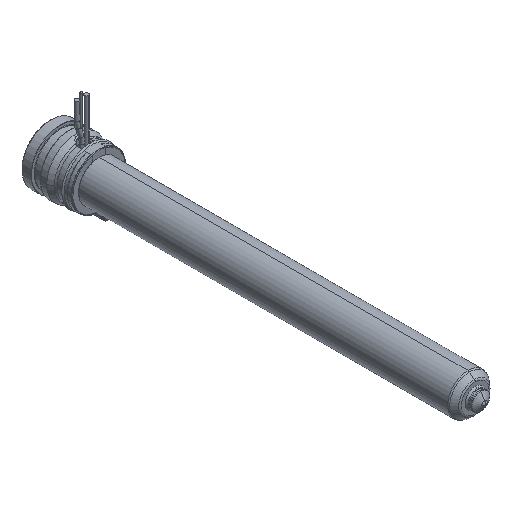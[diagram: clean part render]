
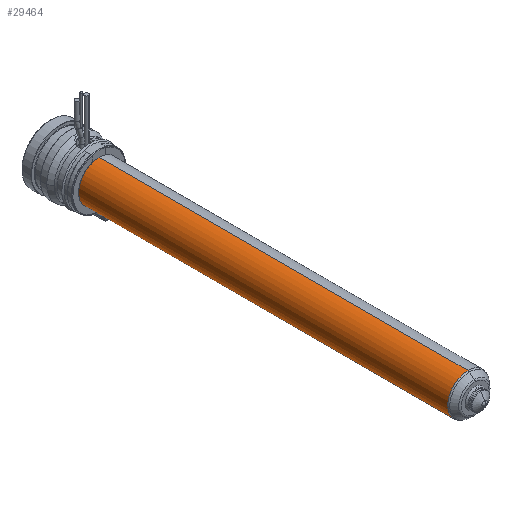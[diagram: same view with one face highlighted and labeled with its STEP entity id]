
A CAD part, isometric view. The second image highlights one B-rep face of the part: STEP entity #29464.
In plain terms, the highlighted cylindrical face has radius 9 mm (diameter 18 mm), a partial arc.
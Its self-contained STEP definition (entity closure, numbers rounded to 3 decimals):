
#28868=CARTESIAN_POINT('',(0.,-185.836,0.));
#28869=DIRECTION('',(0.,-1.,0.));
#28870=DIRECTION('',(0.,0.,1.));
#28871=AXIS2_PLACEMENT_3D('',#28868,#28869,#28870);
#28873=CARTESIAN_POINT('',(0.,-22.,0.));
#28874=DIRECTION('',(0.,1.,0.));
#28875=DIRECTION('',(0.,0.,-1.));
#28876=AXIS2_PLACEMENT_3D('',#28873,#28874,#28875);
#28878=DIRECTION('',(0.,1.,0.));
#28879=VECTOR('',#28878,163.836);
#28880=CARTESIAN_POINT('',(0.,-185.836,9.));
#28881=LINE('',#28880,#28879);
#28887=DIRECTION('',(0.,1.,0.));
#28888=VECTOR('',#28887,163.836);
#28889=CARTESIAN_POINT('',(0.,-185.836,-9.));
#28890=LINE('',#28889,#28888);
#29007=CARTESIAN_POINT('',(0.,-185.836,9.));
#29008=CARTESIAN_POINT('',(0.,-22.,9.));
#29009=VERTEX_POINT('',#29007);
#29010=VERTEX_POINT('',#29008);
#29011=CARTESIAN_POINT('',(0.,-185.836,-9.));
#29012=CARTESIAN_POINT('',(0.,-22.,-9.));
#29013=VERTEX_POINT('',#29011);
#29014=VERTEX_POINT('',#29012);
#29450=CARTESIAN_POINT('',(0.,-9.2,0.));
#29451=DIRECTION('',(0.,-1.,0.));
#29452=DIRECTION('',(0.,0.,1.));
#29453=AXIS2_PLACEMENT_3D('',#29450,#29451,#29452);
#29454=CYLINDRICAL_SURFACE('',#29453,9.);
#29456=ORIENTED_EDGE('',*,*,#29455,.F.);
#29457=ORIENTED_EDGE('',*,*,#29438,.T.);
#29459=ORIENTED_EDGE('',*,*,#29458,.T.);
#29461=ORIENTED_EDGE('',*,*,#29460,.T.);
#29462=EDGE_LOOP('',(#29456,#29457,#29459,#29461));
#29463=FACE_OUTER_BOUND('',#29462,.F.);
#29464=ADVANCED_FACE('',(#29463),#29454,.T.);
#28872=CIRCLE('',#28871,9.);
#28877=CIRCLE('',#28876,9.);
#29438=EDGE_CURVE('',#29009,#29013,#28872,.T.);
#29455=EDGE_CURVE('',#29009,#29010,#28881,.T.);
#29458=EDGE_CURVE('',#29013,#29014,#28890,.T.);
#29460=EDGE_CURVE('',#29014,#29010,#28877,.T.);
